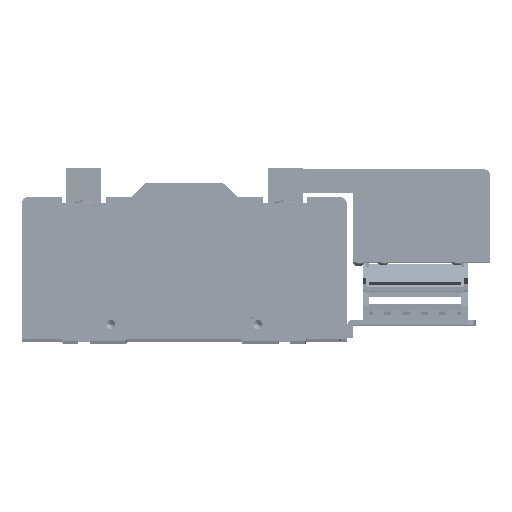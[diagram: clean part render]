
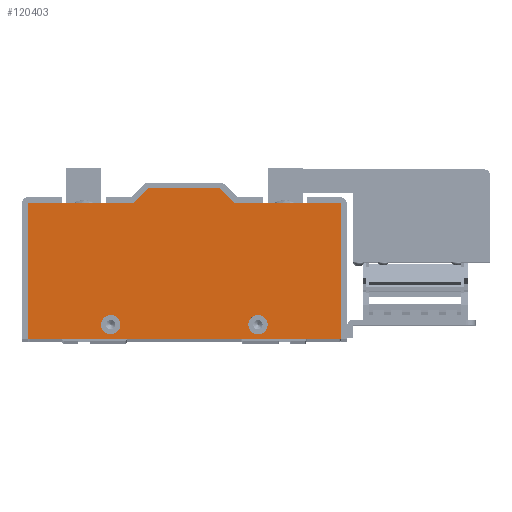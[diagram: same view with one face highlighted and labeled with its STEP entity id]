
A CAD part, top view. The second image highlights one B-rep face of the part: STEP entity #120403.
In plain terms, the highlighted planar face has unit normal (0, 0, 1).
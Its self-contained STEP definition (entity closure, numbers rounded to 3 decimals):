
#2350 = DIRECTION ( 'NONE',  ( 1., 0., 0. ) ) ;
#2351 = DIRECTION ( 'NONE',  ( 0., 0., 1. ) ) ;
#2353 = CARTESIAN_POINT ( 'NONE',  ( 40., -29., 9.525 ) ) ;
#2354 = AXIS2_PLACEMENT_3D ( 'NONE', #2353, #2351, #2350 ) ;
#2356 = CIRCLE ( 'NONE', #2354, 5.25 ) ;
#2613 = CARTESIAN_POINT ( 'NONE',  ( 45.25, -29., 9.525 ) ) ;
#2625 = CARTESIAN_POINT ( 'NONE',  ( -19.5, 45., 9.525 ) ) ;
#3025 = CARTESIAN_POINT ( 'NONE',  ( -19.5, 45., 9.525 ) ) ;
#3027 = LINE ( 'NONE', #3025, #3085 ) ;
#3062 = DIRECTION ( 'NONE',  ( -1., 0., 0. ) ) ;
#3085 = VECTOR ( 'NONE', #3062, 1000. ) ;
#4525 = AXIS2_PLACEMENT_3D ( 'NONE', #4586, #4660, #4571 ) ;
#4571 = DIRECTION ( 'NONE',  ( 1., 0., 0. ) ) ;
#4586 = CARTESIAN_POINT ( 'NONE',  ( -40., -29., 9.525 ) ) ;
#4647 = CIRCLE ( 'NONE', #4525, 5.25 ) ;
#4660 = DIRECTION ( 'NONE',  ( 0., 0., 1. ) ) ;
#4903 = CARTESIAN_POINT ( 'NONE',  ( -45.25, -29., 9.525 ) ) ;
#5189 = DIRECTION ( 'NONE',  ( -0.707, -0.707, 0. ) ) ;
#5190 = VECTOR ( 'NONE', #5189, 1000. ) ;
#5192 = CARTESIAN_POINT ( 'NONE',  ( -27.5, 37., 9.525 ) ) ;
#5237 = LINE ( 'NONE', #5192, #5190 ) ;
#5238 = CARTESIAN_POINT ( 'NONE',  ( -27.5, 37., 9.525 ) ) ;
#5322 = VECTOR ( 'NONE', #6148, 1000. ) ;
#5427 = CARTESIAN_POINT ( 'NONE',  ( -34.75, -29., 9.525 ) ) ;
#5804 = CARTESIAN_POINT ( 'NONE',  ( 34.75, -29., 9.525 ) ) ;
#6119 = LINE ( 'NONE', #6188, #6187 ) ;
#6148 = DIRECTION ( 'NONE',  ( -1., 0., 0. ) ) ;
#6186 = DIRECTION ( 'NONE',  ( -0.707, 0.707, 0. ) ) ;
#6187 = VECTOR ( 'NONE', #6186, 1000. ) ;
#6188 = CARTESIAN_POINT ( 'NONE',  ( 19.5, 45., 9.525 ) ) ;
#6858 = CARTESIAN_POINT ( 'NONE',  ( 19.5, 45., 9.525 ) ) ;
#6898 = CARTESIAN_POINT ( 'NONE',  ( -85., -37., 9.525 ) ) ;
#6993 = CARTESIAN_POINT ( 'NONE',  ( 27.5, 37., 9.525 ) ) ;
#7002 = CARTESIAN_POINT ( 'NONE',  ( -85., 37., 9.525 ) ) ;
#7003 = DIRECTION ( 'NONE',  ( 0., -1., 0. ) ) ;
#7004 = VECTOR ( 'NONE', #7003, 1000. ) ;
#7006 = CARTESIAN_POINT ( 'NONE',  ( -85., 37., 9.525 ) ) ;
#7007 = LINE ( 'NONE', #7006, #7004 ) ;
#7040 = CARTESIAN_POINT ( 'NONE',  ( 85., 37., 9.525 ) ) ;
#7588 = CARTESIAN_POINT ( 'NONE',  ( 85., -37., 9.525 ) ) ;
#9261 = LINE ( 'NONE', #9440, #9439 ) ;
#9438 = DIRECTION ( 'NONE',  ( 1., 0., 0. ) ) ;
#9439 = VECTOR ( 'NONE', #9438, 1000. ) ;
#9440 = CARTESIAN_POINT ( 'NONE',  ( -85., -37., 9.525 ) ) ;
#9529 = LINE ( 'NONE', #9552, #9548 ) ;
#9548 = VECTOR ( 'NONE', #9551, 1000. ) ;
#9551 = DIRECTION ( 'NONE',  ( 0., 1., 0. ) ) ;
#9552 = CARTESIAN_POINT ( 'NONE',  ( 85., 37., 9.525 ) ) ;
#9662 = LINE ( 'NONE', #9766, #5322 ) ;
#9766 = CARTESIAN_POINT ( 'NONE',  ( 27.5, 37., 9.525 ) ) ;
#12747 = AXIS2_PLACEMENT_3D ( 'NONE', #12859, #12808, #12788 ) ;
#12748 = FACE_OUTER_BOUND ( 'NONE', #120700, .T. ) ;
#12788 = DIRECTION ( 'NONE',  ( 1., 0., 0. ) ) ;
#12790 = DIRECTION ( 'NONE',  ( 1., 0., 0. ) ) ;
#12791 = DIRECTION ( 'NONE',  ( 0., 0., 1. ) ) ;
#12792 = CARTESIAN_POINT ( 'NONE',  ( -40., -29., 9.525 ) ) ;
#12793 = AXIS2_PLACEMENT_3D ( 'NONE', #12792, #12791, #12790 ) ;
#12795 = FACE_BOUND ( 'NONE', #120568, .T. ) ;
#12808 = DIRECTION ( 'NONE',  ( 0., 0., 1. ) ) ;
#12810 = PLANE ( 'NONE',  #12747 ) ;
#12813 = CIRCLE ( 'NONE', #12793, 5.25 ) ;
#12859 = CARTESIAN_POINT ( 'NONE',  ( -85., 37., 9.525 ) ) ;
#12882 = FACE_BOUND ( 'NONE', #120407, .T. ) ;
#13443 = DIRECTION ( 'NONE',  ( 1., 0., 0. ) ) ;
#13444 = DIRECTION ( 'NONE',  ( 0., 0., 1. ) ) ;
#13446 = CARTESIAN_POINT ( 'NONE',  ( 40., -29., 9.525 ) ) ;
#13447 = AXIS2_PLACEMENT_3D ( 'NONE', #13446, #13444, #13443 ) ;
#13448 = CIRCLE ( 'NONE', #13447, 5.25 ) ;
#14576 = DIRECTION ( 'NONE',  ( -1., 0., 0. ) ) ;
#14577 = VECTOR ( 'NONE', #14576, 1000. ) ;
#14578 = CARTESIAN_POINT ( 'NONE',  ( -85., 37., 9.525 ) ) ;
#14579 = LINE ( 'NONE', #14578, #14577 ) ;
#119097 = VERTEX_POINT ( 'NONE', #2613 ) ;
#119229 = EDGE_CURVE ( 'NONE', #119848, #119097, #2356, .T. ) ;
#119289 = VERTEX_POINT ( 'NONE', #2625 ) ;
#119331 = EDGE_CURVE ( 'NONE', #120029, #119289, #3027, .T. ) ;
#119574 = VERTEX_POINT ( 'NONE', #4903 ) ;
#119579 = EDGE_CURVE ( 'NONE', #119574, #119726, #4647, .T. ) ;
#119624 = VERTEX_POINT ( 'NONE', #5238 ) ;
#119628 = EDGE_CURVE ( 'NONE', #119289, #119624, #5237, .T. ) ;
#119726 = VERTEX_POINT ( 'NONE', #5427 ) ;
#119848 = VERTEX_POINT ( 'NONE', #5804 ) ;
#119906 = EDGE_CURVE ( 'NONE', #120056, #120029, #6119, .T. ) ;
#120029 = VERTEX_POINT ( 'NONE', #6858 ) ;
#120042 = VERTEX_POINT ( 'NONE', #6898 ) ;
#120054 = VERTEX_POINT ( 'NONE', #7040 ) ;
#120056 = VERTEX_POINT ( 'NONE', #6993 ) ;
#120072 = EDGE_CURVE ( 'NONE', #120076, #120042, #7007, .T. ) ;
#120076 = VERTEX_POINT ( 'NONE', #7002 ) ;
#120093 = VERTEX_POINT ( 'NONE', #7588 ) ;
#120097 = EDGE_CURVE ( 'NONE', #120042, #120093, #9261, .T. ) ;
#120114 = EDGE_CURVE ( 'NONE', #120093, #120054, #9529, .T. ) ;
#120140 = EDGE_CURVE ( 'NONE', #120054, #120056, #9662, .T. ) ;
#120319 = ORIENTED_EDGE ( 'NONE', *, *, #119906, .T. ) ;
#120337 = ORIENTED_EDGE ( 'NONE', *, *, #120140, .T. ) ;
#120369 = ORIENTED_EDGE ( 'NONE', *, *, #120072, .T. ) ;
#120392 = ORIENTED_EDGE ( 'NONE', *, *, #119331, .T. ) ;
#120394 = ORIENTED_EDGE ( 'NONE', *, *, #119628, .T. ) ;
#120403 = ADVANCED_FACE ( 'NONE', ( #12882, #12795, #12748 ), #12810, .T. ) ;
#120407 = EDGE_LOOP ( 'NONE', ( #120414, #120425 ) ) ;
#120414 = ORIENTED_EDGE ( 'NONE', *, *, #120417, .F. ) ;
#120417 = EDGE_CURVE ( 'NONE', #119726, #119574, #12813, .T. ) ;
#120425 = ORIENTED_EDGE ( 'NONE', *, *, #119579, .F. ) ;
#120429 = ORIENTED_EDGE ( 'NONE', *, *, #120683, .T. ) ;
#120506 = ORIENTED_EDGE ( 'NONE', *, *, #120097, .T. ) ;
#120542 = EDGE_CURVE ( 'NONE', #119097, #119848, #13448, .T. ) ;
#120551 = ORIENTED_EDGE ( 'NONE', *, *, #119229, .F. ) ;
#120568 = EDGE_LOOP ( 'NONE', ( #120571, #120551 ) ) ;
#120571 = ORIENTED_EDGE ( 'NONE', *, *, #120542, .F. ) ;
#120667 = ORIENTED_EDGE ( 'NONE', *, *, #120114, .T. ) ;
#120683 = EDGE_CURVE ( 'NONE', #119624, #120076, #14579, .T. ) ;
#120700 = EDGE_LOOP ( 'NONE', ( #120369, #120506, #120667, #120337, #120319, #120392, #120394, #120429 ) ) ;
